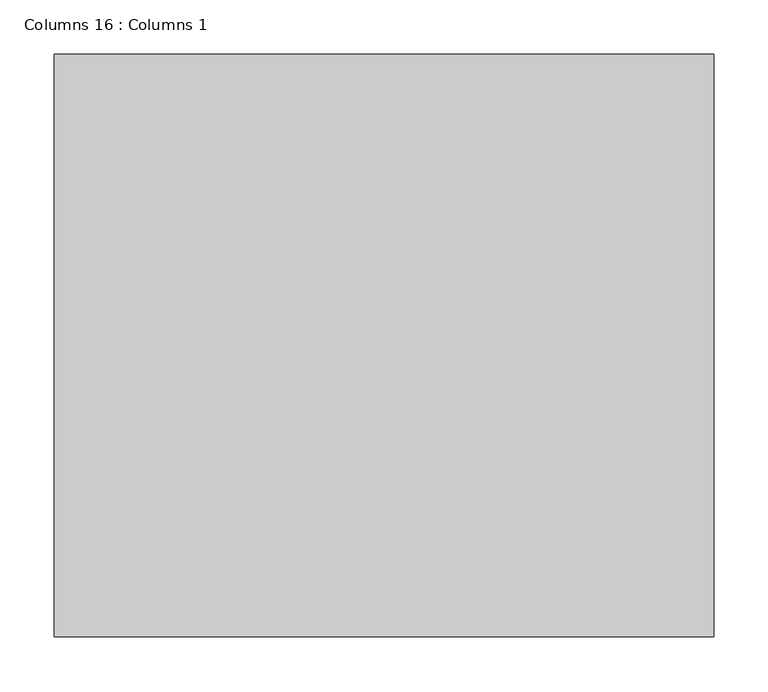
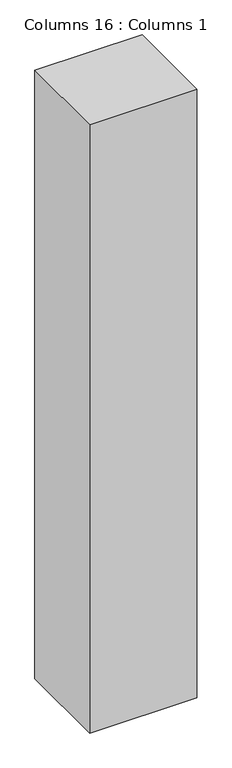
"""IFC4 building model written with IfcOpenShell, lengths in millimetres: column geometry, Columns 16 : Columns 1."""

from ifc_helpers import new_model, si_unit, origin, origin_with_axes, place, context, project, spatial, polyline, outline, extrude, source, transform, mapped, element, save


def columns_16_columns_1_e686ee1a(model_context):
    return source(origin(), model_context, "Body", "SweptSolid", [
        extrude(outline(polyline([(12360.4363001, 87729.382276), (12360.4363001, 87191.0689412), (11750.8363001, 87191.0689412), (11750.8363001, 87729.382276), (12360.4363001, 87729.382276)])), origin_with_axes(), (0.0, 0.0, 1.0), 3657.6),
    ])


if __name__ == "__main__":
    model = new_model("IFC4")
    model_context = context("Model", 3, world=origin())
    ifc_project = project(units=[si_unit("LENGTHUNIT", "METRE", prefix="MILLI")], contexts=[model_context])
    site = spatial("IfcSite", under=ifc_project)
    building = spatial("IfcBuilding", under=site)
    placement = place(None, origin())
    columns_16_columns_1_shape = columns_16_columns_1_e686ee1a(model_context)
    element("IfcColumn", 1, ObjectType="Columns 16 : Columns 1", at=placement, inside=building, context=model_context, shape_type="MappedRepresentation", body=[
        mapped(columns_16_columns_1_shape, transform((0.0, 0.0, 0.0), x_axis=(1.0, 0.0, 0.0), y_axis=(0.0, 1.0, 0.0), z_axis=(0.0, 0.0, 1.0))),
    ])
    save(model, "model.ifc")
